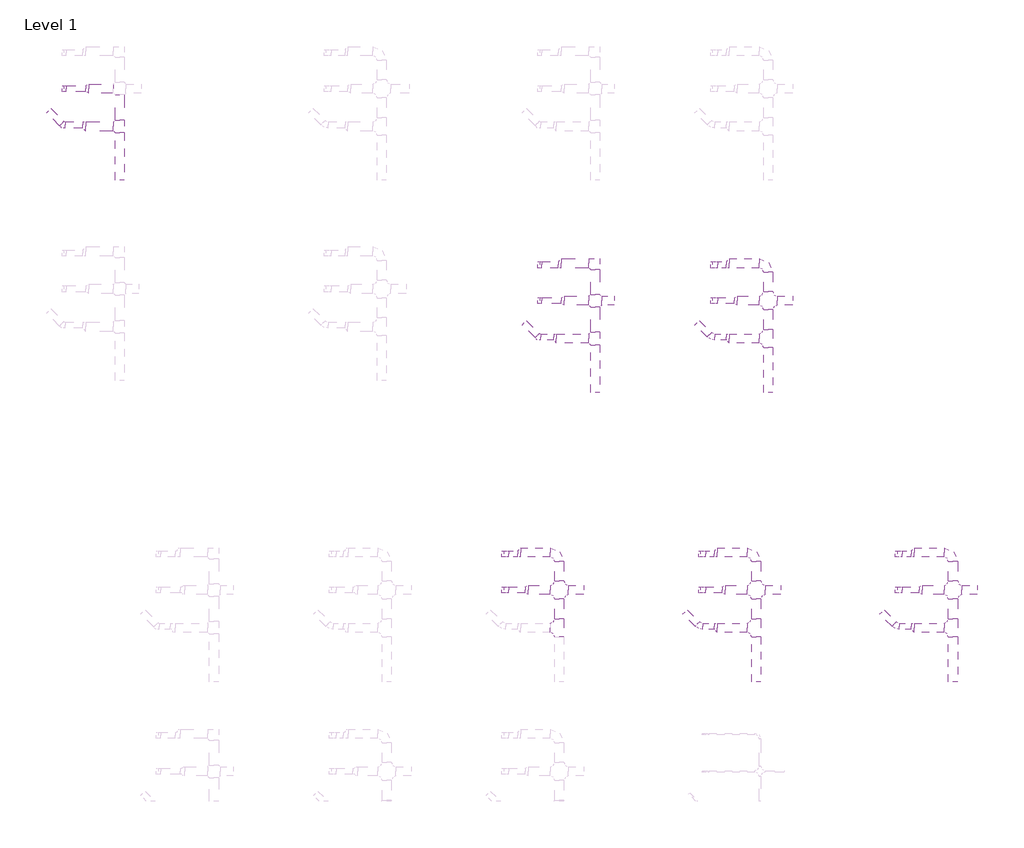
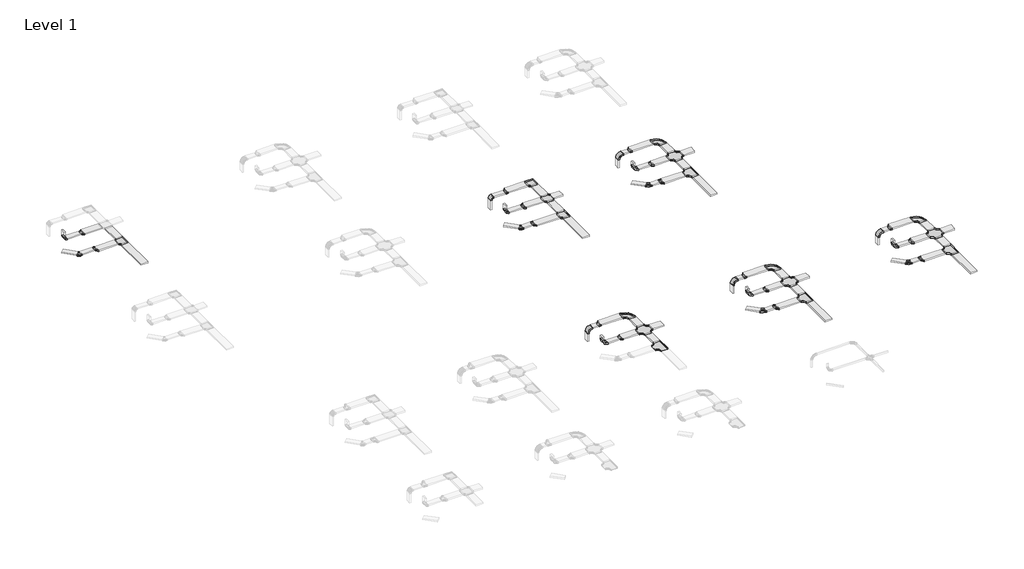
# One storey, part 3 of 42: 69 cable carrier segments, 48 cable carrier fittings.
"""IFC4 building model written with IfcOpenShell, lengths in millimetres."""

from ifc_helpers import new_model, si_unit, frame, origin, place, context, project, spatial, polyline, outline, extrude, transform, mapped, element, save
from components import cable_carrier_fitting_1_mm_2a4d519b, cable_carrier_fitting_1_mm_c912ada3, cable_carrier_fitting_1_mm_805de479, cable_carrier_fitting_1_mm_529289f4, cable_carrier_fitting_1_mm_c1197fce, cable_carrier_fitting_1_mm_367de262, cable_carrier_fitting_1_mm_a7febe8f, cable_carrier_fitting_1_mm_874ef249, cable_carrier_fitting_1_mm_fc54f34e, cable_carrier_fitting_1_mm_42b71fda, cable_carrier_fitting_1_mm_6862339d, cable_carrier_fitting_1_mm_9a7406c8, cable_carrier_fitting_1_mm_d3f2b815, cable_carrier_fitting_1_mm_2ea6bbca, cable_carrier_fitting_1_mm_5924018d, cable_carrier_fitting_1_mm_e192c5dd, cable_carrier_fitting_1_mm_ffd8b238, cable_carrier_fitting_1_mm_02684e42, cable_carrier_fitting_1_mm_d51f4f64, cable_carrier_fitting_1_mm_cfe8fd75, cable_carrier_fitting_1_5_mm_cd1b78aa

model = new_model("IFC4")

# Units and contexts
model_context = context("Model", 3, world=origin())
ifc_project = project(units=[si_unit("LENGTHUNIT", "METRE", prefix="MILLI")], contexts=[model_context])

# Site, building, storey
site = spatial("IfcSite", under=ifc_project)
building = spatial("IfcBuilding", under=site)
storey = spatial("IfcBuildingStorey", under=building, Name="Level 1", Elevation=0.0)

# Cable carrier fittings
placement = place(None, origin())
cable_carrier_fitting_1_mm_shape = cable_carrier_fitting_1_mm_2a4d519b(model_context)
element("IfcCableCarrierFitting", 1, ObjectType="BAKS_Redukcja : 1 mm", at=placement, inside=storey, context=model_context, shape_type="MappedRepresentation", body=[
    mapped(cable_carrier_fitting_1_mm_shape, transform((-29212.5109632, 18572.5015825, 2750.0), x_axis=(1.0, 0.0, 0.0), y_axis=(0.0, 1.0, 0.0), z_axis=(0.0, 0.0, 1.0))),
])
cable_carrier_fitting_1_mm_2_shape = cable_carrier_fitting_1_mm_c912ada3(model_context)
element("IfcCableCarrierFitting", 2, ObjectType="BAKS_Redukcja : 1 mm", at=placement, inside=storey, context=model_context, shape_type="MappedRepresentation", body=[
    mapped(cable_carrier_fitting_1_mm_2_shape, transform((-29212.5109632, 17341.8691699, 2750.0), x_axis=(-1.0, 0.0, 0.0), y_axis=(0.0, -1.0, 0.0), z_axis=(0.0, 0.0, 1.0))),
])
cable_carrier_fitting_1_mm_3_shape = cable_carrier_fitting_1_mm_805de479(model_context)
element("IfcCableCarrierFitting", 3, ObjectType="BAKS_Redukcja : 1 mm", at=placement, inside=storey, context=model_context, shape_type="MappedRepresentation", body=[
    mapped(cable_carrier_fitting_1_mm_3_shape, transform((-13752.21471, 11672.5015825, 2750.0), x_axis=(1.0, 0.0, 0.0), y_axis=(0.0, 1.0, 0.0), z_axis=(0.0, 0.0, 1.0))),
])
element("IfcCableCarrierFitting", 4, ObjectType="BAKS_Redukcja : 1 mm", at=placement, inside=storey, context=model_context, shape_type="MappedRepresentation", body=[
    mapped(cable_carrier_fitting_1_mm_3_shape, transform((-8132.21471, 11672.5015825, 2750.0), x_axis=(1.0, 0.0, 0.0), y_axis=(0.0, 1.0, 0.0), z_axis=(0.0, 0.0, 1.0))),
])
cable_carrier_fitting_1_mm_4_shape = cable_carrier_fitting_1_mm_529289f4(model_context)
element("IfcCableCarrierFitting", 5, ObjectType="BAKS_Redukcja : 1 mm", at=placement, inside=storey, context=model_context, shape_type="MappedRepresentation", body=[
    mapped(cable_carrier_fitting_1_mm_4_shape, transform((-13752.21471, 12890.4928401, 2750.0), x_axis=(-1.0, 0.0, 0.0), y_axis=(0.0, -1.0, 0.0), z_axis=(0.0, 0.0, 1.0))),
])
element("IfcCableCarrierFitting", 6, ObjectType="BAKS_Redukcja : 1 mm", at=placement, inside=storey, context=model_context, shape_type="MappedRepresentation", body=[
    mapped(cable_carrier_fitting_1_mm_4_shape, transform((-8292.21471, 12890.4928401, 2750.0), x_axis=(-1.0, 0.0, 0.0), y_axis=(0.0, -1.0, 0.0), z_axis=(0.0, 0.0, 1.0))),
])
cable_carrier_fitting_1_mm_5_shape = cable_carrier_fitting_1_mm_c1197fce(model_context)
element("IfcCableCarrierFitting", 7, ObjectType="BAKS_Redukcja : 1 mm", at=placement, inside=storey, context=model_context, shape_type="MappedRepresentation", body=[
    mapped(cable_carrier_fitting_1_mm_5_shape, transform((-13912.21471, 10441.8691699, 2750.0), x_axis=(-1.0, 0.0, 0.0), y_axis=(0.0, -1.0, 0.0), z_axis=(0.0, 0.0, 1.0))),
])
element("IfcCableCarrierFitting", 8, ObjectType="BAKS_Redukcja : 1 mm", at=placement, inside=storey, context=model_context, shape_type="MappedRepresentation", body=[
    mapped(cable_carrier_fitting_1_mm_5_shape, transform((-8292.21471, 10441.8691699, 2750.0), x_axis=(-1.0, 0.0, 0.0), y_axis=(0.0, -1.0, 0.0), z_axis=(0.0, 0.0, 1.0))),
])
element("IfcCableCarrierFitting", 9, ObjectType="BAKS_Redukcja E90 : 1 mm", at=placement, inside=storey, context=model_context, shape_type="MappedRepresentation", body=[
    mapped(cable_carrier_fitting_1_mm_3_shape, transform((-2122.2064802, 2262.7261418, 2750.0), x_axis=(1.0, 0.0, 0.0), y_axis=(0.0, 1.0, 0.0), z_axis=(0.0, 0.0, 1.0))),
])
element("IfcCableCarrierFitting", 10, ObjectType="BAKS_Redukcja E90 : 1 mm", at=placement, inside=storey, context=model_context, shape_type="MappedRepresentation", body=[
    mapped(cable_carrier_fitting_1_mm_4_shape, transform((-2282.2064802, 3480.7173994, 2750.0), x_axis=(-1.0, 0.0, 0.0), y_axis=(0.0, -1.0, 0.0), z_axis=(0.0, 0.0, 1.0))),
])
element("IfcCableCarrierFitting", 11, ObjectType="BAKS_Redukcja E90 : 1 mm", at=placement, inside=storey, context=model_context, shape_type="MappedRepresentation", body=[
    mapped(cable_carrier_fitting_1_mm_5_shape, transform((-2282.2064802, 1032.0937292, 2750.0), x_axis=(-1.0, 0.0, 0.0), y_axis=(0.0, -1.0, 0.0), z_axis=(0.0, 0.0, 1.0))),
])
cable_carrier_fitting_1_mm_6_shape = cable_carrier_fitting_1_mm_367de262(model_context)
element("IfcCableCarrierFitting", 12, ObjectType="BAKS_Czwórnik_koryta (R140) : 1 mm", at=placement, inside=storey, context=model_context, shape_type="MappedRepresentation", body=[
    mapped(cable_carrier_fitting_1_mm_6_shape, transform((-7032.21471, 11672.5015825, 2750.0), x_axis=(0.0, 1.0, 0.0), y_axis=(-1.0, 0.0, 0.0), z_axis=(0.0, 0.0, 1.0))),
])
cable_carrier_fitting_1_mm_7_shape = cable_carrier_fitting_1_mm_a7febe8f(model_context)
element("IfcCableCarrierFitting", 13, ObjectType="BAKS_Trójnik_koryta (R140) : 1 mm", at=placement, inside=storey, context=model_context, shape_type="MappedRepresentation", body=[
    mapped(cable_carrier_fitting_1_mm_7_shape, transform((-7032.21471, 10441.8691699, 2750.0), x_axis=(0.0, -1.0, 0.0), y_axis=(1.0, 0.0, 0.0), z_axis=(0.0, 0.0, 1.0))),
])
cable_carrier_fitting_1_mm_8_shape = cable_carrier_fitting_1_mm_874ef249(model_context)
element("IfcCableCarrierFitting", 14, ObjectType="BAKS_Kolano_koryta : 1 mm", at=placement, inside=storey, context=model_context, shape_type="MappedRepresentation", body=[
    mapped(cable_carrier_fitting_1_mm_8_shape, transform((-29952.5109632, 17391.8691699, 2750.0), x_axis=(0.7071067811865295, -0.7071067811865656, 0.0), y_axis=(0.7071067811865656, 0.7071067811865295, 0.0), z_axis=(0.0, 0.0, 1.0))),
])
cable_carrier_fitting_1_mm_9_shape = cable_carrier_fitting_1_mm_fc54f34e(model_context)
element("IfcCableCarrierFitting", 15, ObjectType="BAKS_Kolano_koryta : 1 mm", at=placement, inside=storey, context=model_context, shape_type="MappedRepresentation", body=[
    mapped(cable_carrier_fitting_1_mm_9_shape, transform((-14492.21471, 10491.8691699, 2750.0), x_axis=(0.707106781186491, -0.7071067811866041, 0.0), y_axis=(0.7071067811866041, 0.707106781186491, 0.0), z_axis=(0.0, 0.0, 1.0))),
])
cable_carrier_fitting_1_mm_10_shape = cable_carrier_fitting_1_mm_42b71fda(model_context)
element("IfcCableCarrierFitting", 16, ObjectType="BAKS_Kolano_koryta : 1 mm", at=placement, inside=storey, context=model_context, shape_type="MappedRepresentation", body=[
    mapped(cable_carrier_fitting_1_mm_10_shape, transform((-12652.21471, 12890.4928401, 2750.0), x_axis=(0.0, 1.0, 0.0), y_axis=(-1.0, 0.0, 0.0), z_axis=(0.0, 0.0, 1.0))),
])
cable_carrier_fitting_1_mm_11_shape = cable_carrier_fitting_1_mm_6862339d(model_context)
element("IfcCableCarrierFitting", 17, ObjectType="BAKS_Kolano_koryta (R140) : 1 mm", at=placement, inside=storey, context=model_context, shape_type="MappedRepresentation", body=[
    mapped(cable_carrier_fitting_1_mm_11_shape, transform((-8872.21471, 10491.8691699, 2750.0), x_axis=(0.7071067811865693, -0.7071067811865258, 0.0), y_axis=(0.7071067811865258, 0.7071067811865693, 0.0), z_axis=(0.0, 0.0, 1.0))),
])
cable_carrier_fitting_1_mm_12_shape = cable_carrier_fitting_1_mm_9a7406c8(model_context)
element("IfcCableCarrierFitting", 18, ObjectType="BAKS_Kolano_koryta (R140) : 1 mm", at=placement, inside=storey, context=model_context, shape_type="MappedRepresentation", body=[
    mapped(cable_carrier_fitting_1_mm_12_shape, transform((-7032.21471, 12890.4928401, 2750.0), x_axis=(0.0, 1.0, 0.0), y_axis=(-1.0, 0.0, 0.0), z_axis=(0.0, 0.0, 1.0))),
])
cable_carrier_fitting_1_mm_13_shape = cable_carrier_fitting_1_mm_d3f2b815(model_context)
element("IfcCableCarrierFitting", 19, ObjectType="BAKS_Czwórnik_koryta : 1 mm", at=placement, inside=storey, context=model_context, shape_type="MappedRepresentation", body=[
    mapped(cable_carrier_fitting_1_mm_13_shape, transform((-12652.21471, 11672.5015825, 2750.0), x_axis=(0.0, 1.0, 0.0), y_axis=(-1.0, 0.0, 0.0), z_axis=(0.0, 0.0, 1.0))),
])
cable_carrier_fitting_1_mm_14_shape = cable_carrier_fitting_1_mm_2ea6bbca(model_context)
element("IfcCableCarrierFitting", 20, ObjectType="BAKS_Trójnik_koryta : 1 mm", at=placement, inside=storey, context=model_context, shape_type="MappedRepresentation", body=[
    mapped(cable_carrier_fitting_1_mm_14_shape, transform((-28112.5109632, 17341.8691699, 2750.0), x_axis=(0.0, -1.0, 0.0), y_axis=(1.0, 0.0, 0.0), z_axis=(0.0, 0.0, 1.0))),
])
cable_carrier_fitting_1_mm_15_shape = cable_carrier_fitting_1_mm_5924018d(model_context)
element("IfcCableCarrierFitting", 21, ObjectType="BAKS_Trójnik_koryta : 1 mm", at=placement, inside=storey, context=model_context, shape_type="MappedRepresentation", body=[
    mapped(cable_carrier_fitting_1_mm_15_shape, transform((-12652.21471, 10441.8691699, 2750.0), x_axis=(0.0, -1.0, 0.0), y_axis=(1.0, 0.0, 0.0), z_axis=(0.0, 0.0, 1.0))),
])
cable_carrier_fitting_1_mm_16_shape = cable_carrier_fitting_1_mm_e192c5dd(model_context)
element("IfcCableCarrierFitting", 22, ObjectType="BAKS_Kolano_koryta E90 (R140) : 1 mm", at=placement, inside=storey, context=model_context, shape_type="MappedRepresentation", body=[
    mapped(cable_carrier_fitting_1_mm_16_shape, transform((-2862.2064802, 1082.0937292, 2750.0), x_axis=(0.7071067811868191, -0.707106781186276, 0.0), y_axis=(0.707106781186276, 0.7071067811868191, 0.0), z_axis=(0.0, 0.0, 1.0))),
])
cable_carrier_fitting_1_mm_17_shape = cable_carrier_fitting_1_mm_ffd8b238(model_context)
element("IfcCableCarrierFitting", 23, ObjectType="BAKS_Kolano_koryta E90 (R140) : 1 mm", at=placement, inside=storey, context=model_context, shape_type="MappedRepresentation", body=[
    mapped(cable_carrier_fitting_1_mm_17_shape, transform((-1022.2064802, 3480.7173994, 2750.0), x_axis=(0.0, 1.0, 0.0), y_axis=(-1.0, 0.0, 0.0), z_axis=(0.0, 0.0, 1.0))),
])
element("IfcCableCarrierFitting", 24, ObjectType="BAKS_Czwórnik_koryta E90 (R140) : 1 mm", at=placement, inside=storey, context=model_context, shape_type="MappedRepresentation", body=[
    mapped(cable_carrier_fitting_1_mm_6_shape, transform((-1022.2064802, 2262.7261418, 2750.0), x_axis=(0.0, 1.0, 0.0), y_axis=(-1.0, 0.0, 0.0), z_axis=(0.0, 0.0, 1.0))),
])
element("IfcCableCarrierFitting", 25, ObjectType="BAKS_Trójnik_koryta E90 (R140) : 1 mm", at=placement, inside=storey, context=model_context, shape_type="MappedRepresentation", body=[
    mapped(cable_carrier_fitting_1_mm_7_shape, transform((-1022.2064802, 1032.0937292, 2750.0), x_axis=(0.0, -1.0, 0.0), y_axis=(1.0, 0.0, 0.0), z_axis=(0.0, 0.0, 1.0))),
])
cable_carrier_fitting_1_mm_18_shape = cable_carrier_fitting_1_mm_02684e42(model_context)
element("IfcCableCarrierFitting", 26, ObjectType="BAKS_Łuk_koryta_pionowy E90 (R140)z : 1 mm", at=placement, inside=storey, context=model_context, shape_type="MappedRepresentation", body=[
    mapped(cable_carrier_fitting_1_mm_18_shape, transform((-2862.2064802, 3430.7173994, 2750.0), x_axis=(0.0, 0.0, 1.0), y_axis=(1.0, 0.0, 0.0), z_axis=(0.0, 1.0, 0.0))),
])
element("IfcCableCarrierFitting", 27, ObjectType="BAKS_Łuk_koryta_pionowy E90 (R140)w : 1 mm", at=placement, inside=storey, context=model_context, shape_type="MappedRepresentation", body=[
    mapped(cable_carrier_fitting_1_mm_18_shape, transform((-2862.2064802, 2262.7261418, 2750.0), x_axis=(0.0, 0.0, -1.0), y_axis=(1.0, 0.0, 0.0), z_axis=(0.0, -1.0, 0.0))),
])
cable_carrier_fitting_1_mm_19_shape = cable_carrier_fitting_1_mm_d51f4f64(model_context)
element("IfcCableCarrierFitting", 28, ObjectType="BAKS_Łuk_koryta_pionowy (R50)w : 1 mm", at=placement, inside=storey, context=model_context, shape_type="MappedRepresentation", body=[
    mapped(cable_carrier_fitting_1_mm_19_shape, transform((-29952.5109632, 18572.5015825, 2750.0), x_axis=(0.0, 0.0, -1.0), y_axis=(1.0, 0.0, 0.0), z_axis=(0.0, -1.0, 0.0))),
])
cable_carrier_fitting_1_mm_20_shape = cable_carrier_fitting_1_mm_cfe8fd75(model_context)
element("IfcCableCarrierFitting", 29, ObjectType="BAKS_Łuk_koryta_pionowy (R50)z : 1 mm", at=placement, inside=storey, context=model_context, shape_type="MappedRepresentation", body=[
    mapped(cable_carrier_fitting_1_mm_20_shape, transform((-14492.21471, 12840.4928401, 2750.0), x_axis=(0.0, 0.0, 1.0), y_axis=(1.0, 0.0, 0.0), z_axis=(0.0, 1.0, 0.0))),
])
element("IfcCableCarrierFitting", 30, ObjectType="BAKS_Łuk_koryta_pionowy (R50)w : 1 mm", at=placement, inside=storey, context=model_context, shape_type="MappedRepresentation", body=[
    mapped(cable_carrier_fitting_1_mm_20_shape, transform((-14492.21471, 11672.5015825, 2750.0), x_axis=(0.0, 0.0, -1.0), y_axis=(1.0, 0.0, 0.0), z_axis=(0.0, -1.0, 0.0))),
])
element("IfcCableCarrierFitting", 31, ObjectType="BAKS_Łuk_koryta_pionowy (R140)z : 1 mm", at=placement, inside=storey, context=model_context, shape_type="MappedRepresentation", body=[
    mapped(cable_carrier_fitting_1_mm_18_shape, transform((-8872.21471, 12840.4928401, 2750.0), x_axis=(0.0, 0.0, 1.0), y_axis=(1.0, 0.0, 0.0), z_axis=(0.0, 1.0, 0.0))),
])
element("IfcCableCarrierFitting", 32, ObjectType="BAKS_Łuk_koryta_pionowy (R140)w : 1 mm", at=placement, inside=storey, context=model_context, shape_type="MappedRepresentation", body=[
    mapped(cable_carrier_fitting_1_mm_18_shape, transform((-8872.21471, 11672.5015825, 2750.0), x_axis=(0.0, 0.0, -1.0), y_axis=(1.0, 0.0, 0.0), z_axis=(0.0, -1.0, 0.0))),
])
element("IfcCableCarrierFitting", 33, ObjectType="BAKS_Redukcja E90 : 1.5 mm", at=placement, inside=storey, context=model_context, shape_type="MappedRepresentation", body=[
    mapped(cable_carrier_fitting_1_mm_3_shape, transform((-8522.2064802, 2262.7261418, 2750.0), x_axis=(1.0, 0.0, 0.0), y_axis=(0.0, 1.0, 0.0), z_axis=(0.0, 0.0, 1.0))),
])
element("IfcCableCarrierFitting", 34, ObjectType="BAKS_Redukcja E90 : 1.5 mm", at=placement, inside=storey, context=model_context, shape_type="MappedRepresentation", body=[
    mapped(cable_carrier_fitting_1_mm_3_shape, transform((-14922.2064802, 2262.7261418, 2750.0), x_axis=(1.0, 0.0, 0.0), y_axis=(0.0, 1.0, 0.0), z_axis=(0.0, 0.0, 1.0))),
])
element("IfcCableCarrierFitting", 35, ObjectType="BAKS_Redukcja E90 : 1.5 mm", at=placement, inside=storey, context=model_context, shape_type="MappedRepresentation", body=[
    mapped(cable_carrier_fitting_1_mm_4_shape, transform((-8682.2064802, 3480.7173994, 2750.0), x_axis=(-1.0, 0.0, 0.0), y_axis=(0.0, -1.0, 0.0), z_axis=(0.0, 0.0, 1.0))),
])
element("IfcCableCarrierFitting", 36, ObjectType="BAKS_Redukcja E90 : 1.5 mm", at=placement, inside=storey, context=model_context, shape_type="MappedRepresentation", body=[
    mapped(cable_carrier_fitting_1_mm_4_shape, transform((-15082.2064802, 3480.7173994, 2750.0), x_axis=(-1.0, 0.0, 0.0), y_axis=(0.0, -1.0, 0.0), z_axis=(0.0, 0.0, 1.0))),
])
element("IfcCableCarrierFitting", 37, ObjectType="BAKS_Redukcja E90 : 1.5 mm", at=placement, inside=storey, context=model_context, shape_type="MappedRepresentation", body=[
    mapped(cable_carrier_fitting_1_mm_5_shape, transform((-8682.2064802, 1032.0937292, 2750.0), x_axis=(-1.0, 0.0, 0.0), y_axis=(0.0, -1.0, 0.0), z_axis=(0.0, 0.0, 1.0))),
])
cable_carrier_fitting_1_5_mm_shape = cable_carrier_fitting_1_5_mm_cd1b78aa(model_context)
element("IfcCableCarrierFitting", 38, ObjectType="BAKS_Kolano_koryta E90 (R140) : 1.5 mm", at=placement, inside=storey, context=model_context, shape_type="MappedRepresentation", body=[
    mapped(cable_carrier_fitting_1_5_mm_shape, transform((-9262.2064802, 1082.0937292, 2750.0), x_axis=(0.7071067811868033, -0.7071067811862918, 0.0), y_axis=(0.7071067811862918, 0.7071067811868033, 0.0), z_axis=(0.0, 0.0, 1.0))),
])
element("IfcCableCarrierFitting", 39, ObjectType="BAKS_Kolano_koryta E90 (R140) : 1.5 mm", at=placement, inside=storey, context=model_context, shape_type="MappedRepresentation", body=[
    mapped(cable_carrier_fitting_1_mm_17_shape, transform((-7422.2064802, 3480.7173994, 2750.0), x_axis=(0.0, 1.0, 0.0), y_axis=(-1.0, 0.0, 0.0), z_axis=(0.0, 0.0, 1.0))),
])
element("IfcCableCarrierFitting", 40, ObjectType="BAKS_Kolano_koryta E90 (R140) : 1.5 mm", at=placement, inside=storey, context=model_context, shape_type="MappedRepresentation", body=[
    mapped(cable_carrier_fitting_1_mm_17_shape, transform((-13822.2064802, 3480.7173994, 2750.0), x_axis=(0.0, 1.0, 0.0), y_axis=(-1.0, 0.0, 0.0), z_axis=(0.0, 0.0, 1.0))),
])
element("IfcCableCarrierFitting", 41, ObjectType="BAKS_Czwórnik_koryta E90 (R140) : 1.5 mm", at=placement, inside=storey, context=model_context, shape_type="MappedRepresentation", body=[
    mapped(cable_carrier_fitting_1_mm_6_shape, transform((-7422.2064802, 2262.7261418, 2750.0), x_axis=(0.0, 1.0, 0.0), y_axis=(-1.0, 0.0, 0.0), z_axis=(0.0, 0.0, 1.0))),
])
element("IfcCableCarrierFitting", 42, ObjectType="BAKS_Czwórnik_koryta E90 (R140) : 1.5 mm", at=placement, inside=storey, context=model_context, shape_type="MappedRepresentation", body=[
    mapped(cable_carrier_fitting_1_mm_6_shape, transform((-13822.2064802, 2262.7261418, 2750.0), x_axis=(0.0, 1.0, 0.0), y_axis=(-1.0, 0.0, 0.0), z_axis=(0.0, 0.0, 1.0))),
])
element("IfcCableCarrierFitting", 43, ObjectType="BAKS_Trójnik_koryta E90 (R140) : 1.5 mm", at=placement, inside=storey, context=model_context, shape_type="MappedRepresentation", body=[
    mapped(cable_carrier_fitting_1_mm_7_shape, transform((-7422.2064802, 1032.0937292, 2750.0), x_axis=(0.0, -1.0, 0.0), y_axis=(1.0, 0.0, 0.0), z_axis=(0.0, 0.0, 1.0))),
])
element("IfcCableCarrierFitting", 44, ObjectType="BAKS_Trójnik_koryta E90 (R140) : 1.5 mm", at=placement, inside=storey, context=model_context, shape_type="MappedRepresentation", body=[
    mapped(cable_carrier_fitting_1_mm_7_shape, transform((-13822.2064802, 1032.0937292, 2750.0), x_axis=(0.0, -1.0, 0.0), y_axis=(1.0, 0.0, 0.0), z_axis=(0.0, 0.0, 1.0))),
])
element("IfcCableCarrierFitting", 45, ObjectType="BAKS_Łuk_koryta_pionowy E90 (R140)z : 1.5 mm", at=placement, inside=storey, context=model_context, shape_type="MappedRepresentation", body=[
    mapped(cable_carrier_fitting_1_mm_18_shape, transform((-9262.2064802, 3430.7173994, 2750.0), x_axis=(0.0, 0.0, 1.0), y_axis=(1.0, 0.0, 0.0), z_axis=(0.0, 1.0, 0.0))),
])
element("IfcCableCarrierFitting", 46, ObjectType="BAKS_Łuk_koryta_pionowy E90 (R140)z : 1.5 mm", at=placement, inside=storey, context=model_context, shape_type="MappedRepresentation", body=[
    mapped(cable_carrier_fitting_1_mm_18_shape, transform((-15662.2064802, 3430.7173994, 2750.0), x_axis=(0.0, 0.0, 1.0), y_axis=(1.0, 0.0, 0.0), z_axis=(0.0, 1.0, 0.0))),
])
element("IfcCableCarrierFitting", 47, ObjectType="BAKS_Łuk_koryta_pionowy E90 (R140)w : 1.5 mm", at=placement, inside=storey, context=model_context, shape_type="MappedRepresentation", body=[
    mapped(cable_carrier_fitting_1_mm_18_shape, transform((-9262.2064802, 2262.7261418, 2750.0), x_axis=(0.0, 0.0, -1.0), y_axis=(1.0, 0.0, 0.0), z_axis=(0.0, -1.0, 0.0))),
])
element("IfcCableCarrierFitting", 48, ObjectType="BAKS_Łuk_koryta_pionowy E90 (R140)w : 1.5 mm", at=placement, inside=storey, context=model_context, shape_type="MappedRepresentation", body=[
    mapped(cable_carrier_fitting_1_mm_18_shape, transform((-15662.2064802, 2262.7261418, 2750.0), x_axis=(0.0, 0.0, -1.0), y_axis=(1.0, 0.0, 0.0), z_axis=(0.0, -1.0, 0.0))),
])

# Cable carrier segments
element("IfcCableCarrierSegment", 49, ObjectType="BAKS - koryto kablowe H50 (KCL) - ostre", at=placement, inside=storey, context=model_context, shape_type="SweptSolid", body=[
    extrude(outline(polyline([(-27962.5109632, 17546.8691699), (-28262.5109632, 17546.8691699), (-28262.5109632, 18367.5015825), (-27962.5109632, 18367.5015825), (-27962.5109632, 17546.8691699)])), frame((0.0, 0.0, 2725.0), z_axis=(0.0, 0.0, 1.0), x_axis=(1.0, 0.0, 0.0)), (0.0, 0.0, 1.0), 50.0),
])
element("IfcCableCarrierSegment", 50, ObjectType="BAKS - koryto kablowe H50 (KCL) - ostre", at=placement, inside=storey, context=model_context, shape_type="SweptSolid", body=[
    extrude(outline(polyline([(-27962.5109632, 15590.4928401), (-28262.5109632, 15590.4928401), (-28262.5109632, 17136.8691699), (-27962.5109632, 17136.8691699), (-27962.5109632, 15590.4928401)])), frame((0.0, 0.0, 2725.0), z_axis=(0.0, 0.0, 1.0), x_axis=(1.0, 0.0, 0.0)), (0.0, 0.0, 1.0), 50.0),
])
element("IfcCableCarrierSegment", 51, ObjectType="BAKS - koryto kablowe H50 (KCL) - ostre", at=placement, inside=storey, context=model_context, shape_type="SweptSolid", body=[
    extrude(outline(polyline([(-29927.5109632, 18672.5015825), (-29927.5109632, 18472.5015825), (-29977.5109632, 18472.5015825), (-29977.5109632, 18672.5015825), (-29927.5109632, 18672.5015825)])), frame((0.0, 0.0, 2850.0), z_axis=(0.0, 0.0, 1.0), x_axis=(1.0, 0.0, 0.0)), (0.0, 0.0, 1.0), 250.0),
])
element("IfcCableCarrierSegment", 52, ObjectType="BAKS - koryto kablowe H50 (KCL) - ostre", at=placement, inside=storey, context=model_context, shape_type="SweptSolid", body=[
    extrude(outline(polyline([(-29852.5109632, 18472.5015825), (-29852.5109632, 18672.5015825), (-29212.5109632, 18672.5015825), (-29212.5109632, 18472.5015825), (-29852.5109632, 18472.5015825)])), frame((0.0, 0.0, 2725.0), z_axis=(0.0, 0.0, 1.0), x_axis=(1.0, 0.0, 0.0)), (0.0, 0.0, 1.0), 50.0),
])
element("IfcCableCarrierSegment", 53, ObjectType="BAKS - koryto kablowe H50 (KCL) - ostre", at=placement, inside=storey, context=model_context, shape_type="SweptSolid", body=[
    extrude(outline(polyline([(-30489.9121169, 17787.8489674), (-30348.4907606, 17929.2703236), (-29927.9058408, 17508.6854037), (-30069.327197, 17367.2640475), (-30489.9121169, 17787.8489674)])), frame((0.0, 0.0, 2725.0), z_axis=(0.0, 0.0, 1.0), x_axis=(1.0, 0.0, 0.0)), (0.0, 0.0, 1.0), 50.0),
])
element("IfcCableCarrierSegment", 54, ObjectType="BAKS - koryto kablowe H50 (KCL) - ostre", at=placement, inside=storey, context=model_context, shape_type="SweptSolid", body=[
    extrude(outline(polyline([(-29307.5109632, 17491.8691699), (-29307.5109632, 17291.8691699), (-29887.307861, 17291.8691699), (-29887.307861, 17491.8691699), (-29307.5109632, 17491.8691699)])), frame((0.0, 0.0, 2725.0), z_axis=(0.0, 0.0, 1.0), x_axis=(1.0, 0.0, 0.0)), (0.0, 0.0, 1.0), 50.0),
])
element("IfcCableCarrierSegment", 55, ObjectType="BAKS - koryto kablowe H50 (KCL) - ostre", at=placement, inside=storey, context=model_context, shape_type="SweptSolid", body=[
    extrude(outline(polyline([(-28317.5109632, 17491.8691699), (-28317.5109632, 17191.8691699), (-29212.5109632, 17191.8691699), (-29212.5109632, 17491.8691699), (-28317.5109632, 17491.8691699)])), frame((0.0, 0.0, 2725.0), z_axis=(0.0, 0.0, 1.0), x_axis=(1.0, 0.0, 0.0)), (0.0, 0.0, 1.0), 50.0),
])
element("IfcCableCarrierSegment", 56, ObjectType="BAKS - koryto kablowe H50 (KCL) - ostre", at=placement, inside=storey, context=model_context, shape_type="SweptSolid", body=[
    extrude(outline(polyline([(-29117.5109632, 18422.5015825), (-29117.5109632, 18722.5015825), (-28317.5109632, 18722.5015825), (-28317.5109632, 18422.5015825), (-29117.5109632, 18422.5015825)])), frame((0.0, 0.0, 2725.0), z_axis=(0.0, 0.0, 1.0), x_axis=(1.0, 0.0, 0.0)), (0.0, 0.0, 1.0), 50.0),
])
element("IfcCableCarrierSegment", 57, ObjectType="BAKS - koryto kablowe H60 (KGJ) - ostre", at=placement, inside=storey, context=model_context, shape_type="SweptSolid", body=[
    extrude(outline(polyline([(-12502.21471, 10646.8691699), (-12802.21471, 10646.8691699), (-12802.21471, 11467.5015825), (-12502.21471, 11467.5015825), (-12502.21471, 10646.8691699)])), frame((0.0, 0.0, 2720.0), z_axis=(0.0, 0.0, 1.0), x_axis=(1.0, 0.0, 0.0)), (0.0, 0.0, 1.0), 60.0),
])
element("IfcCableCarrierSegment", 58, ObjectType="BAKS - koryto kablowe H60 (KGJ) - ostre", at=placement, inside=storey, context=model_context, shape_type="SweptSolid", body=[
    extrude(outline(polyline([(-14462.21471, 12740.4928401), (-14522.21471, 12740.4928401), (-14522.21471, 12940.4928401), (-14462.21471, 12940.4928401), (-14462.21471, 12740.4928401)])), frame((0.0, 0.0, 2200.0), z_axis=(0.0, 0.0, 1.0), x_axis=(1.0, 0.0, 0.0)), (0.0, 0.0, 1.0), 445.0),
])
element("IfcCableCarrierSegment", 59, ObjectType="BAKS - koryto kablowe H60 (KGJ) - ostre", at=placement, inside=storey, context=model_context, shape_type="SweptSolid", body=[
    extrude(outline(polyline([(-13847.21471, 12940.4928401), (-13847.21471, 12740.4928401), (-14387.21471, 12740.4928401), (-14387.21471, 12940.4928401), (-13847.21471, 12940.4928401)])), frame((0.0, 0.0, 2720.0), z_axis=(0.0, 0.0, 1.0), x_axis=(1.0, 0.0, 0.0)), (0.0, 0.0, 1.0), 60.0),
])
element("IfcCableCarrierSegment", 60, ObjectType="BAKS - koryto kablowe H60 (KGJ) - ostre", at=placement, inside=storey, context=model_context, shape_type="SweptSolid", body=[
    extrude(outline(polyline([(-12502.21471, 8690.4928401), (-12802.21471, 8690.4928401), (-12802.21471, 10236.8691699), (-12502.21471, 10236.8691699), (-12502.21471, 8690.4928401)])), frame((0.0, 0.0, 2720.0), z_axis=(0.0, 0.0, 1.0), x_axis=(1.0, 0.0, 0.0)), (0.0, 0.0, 1.0), 60.0),
])
element("IfcCableCarrierSegment", 61, ObjectType="BAKS - koryto kablowe H60 (KGJ) - ostre", at=placement, inside=storey, context=model_context, shape_type="SweptSolid", body=[
    extrude(outline(polyline([(-14522.21471, 11572.5015825), (-14522.21471, 11772.5015825), (-14462.21471, 11772.5015825), (-14462.21471, 11572.5015825), (-14522.21471, 11572.5015825)])), frame((0.0, 0.0, 2855.0), z_axis=(0.0, 0.0, 1.0), x_axis=(1.0, 0.0, 0.0)), (0.0, 0.0, 1.0), 245.0),
])
element("IfcCableCarrierSegment", 62, ObjectType="BAKS - koryto kablowe H60 (KGJ) - ostre", at=placement, inside=storey, context=model_context, shape_type="SweptSolid", body=[
    extrude(outline(polyline([(-14387.21471, 11572.5015825), (-14387.21471, 11772.5015825), (-13752.21471, 11772.5015825), (-13752.21471, 11572.5015825), (-14387.21471, 11572.5015825)])), frame((0.0, 0.0, 2720.0), z_axis=(0.0, 0.0, 1.0), x_axis=(1.0, 0.0, 0.0)), (0.0, 0.0, 1.0), 60.0),
])
element("IfcCableCarrierSegment", 63, ObjectType="BAKS - koryto kablowe H60 (KGJ) - ostre", at=placement, inside=storey, context=model_context, shape_type="SweptSolid", body=[
    extrude(outline(polyline([(-15029.6158637, 10887.8489674), (-14888.1945075, 11029.2703236), (-14467.6095876, 10608.6854037), (-14609.0309438, 10467.2640475), (-15029.6158637, 10887.8489674)])), frame((0.0, 0.0, 2720.0), z_axis=(0.0, 0.0, 1.0), x_axis=(1.0, 0.0, 0.0)), (0.0, 0.0, 1.0), 60.0),
])
element("IfcCableCarrierSegment", 64, ObjectType="BAKS - koryto kablowe H60 (KGJ) - ostre", at=placement, inside=storey, context=model_context, shape_type="SweptSolid", body=[
    extrude(outline(polyline([(-14007.21471, 10591.8691699), (-14007.21471, 10391.8691699), (-14427.0116078, 10391.8691699), (-14427.0116078, 10591.8691699), (-14007.21471, 10591.8691699)])), frame((0.0, 0.0, 2720.0), z_axis=(0.0, 0.0, 1.0), x_axis=(1.0, 0.0, 0.0)), (0.0, 0.0, 1.0), 60.0),
])
element("IfcCableCarrierSegment", 65, ObjectType="BAKS - koryto kablowe H60 (KGJ) - ostre", at=placement, inside=storey, context=model_context, shape_type="SweptSolid", body=[
    extrude(outline(polyline([(-12029.71471, 11822.5015825), (-12029.71471, 11522.5015825), (-12447.21471, 11522.5015825), (-12447.21471, 11822.5015825), (-12029.71471, 11822.5015825)])), frame((0.0, 0.0, 2720.0), z_axis=(0.0, 0.0, 1.0), x_axis=(1.0, 0.0, 0.0)), (0.0, 0.0, 1.0), 60.0),
])
element("IfcCableCarrierSegment", 66, ObjectType="BAKS - koryto kablowe H60 (KGJ) - ostre", at=placement, inside=storey, context=model_context, shape_type="SweptSolid", body=[
    extrude(outline(polyline([(-12857.21471, 10591.8691699), (-12857.21471, 10291.8691699), (-13912.21471, 10291.8691699), (-13912.21471, 10591.8691699), (-12857.21471, 10591.8691699)])), frame((0.0, 0.0, 2720.0), z_axis=(0.0, 0.0, 1.0), x_axis=(1.0, 0.0, 0.0)), (0.0, 0.0, 1.0), 60.0),
])
element("IfcCableCarrierSegment", 67, ObjectType="BAKS - koryto kablowe H60 (KGJ) - ostre", at=placement, inside=storey, context=model_context, shape_type="SweptSolid", body=[
    extrude(outline(polyline([(-13657.21471, 11522.5015825), (-13657.21471, 11822.5015825), (-12857.21471, 11822.5015825), (-12857.21471, 11522.5015825), (-13657.21471, 11522.5015825)])), frame((0.0, 0.0, 2720.0), z_axis=(0.0, 0.0, 1.0), x_axis=(1.0, 0.0, 0.0)), (0.0, 0.0, 1.0), 60.0),
])
element("IfcCableCarrierSegment", 68, ObjectType="BAKS - koryto kablowe H60 (KGJ) - ostre", at=placement, inside=storey, context=model_context, shape_type="SweptSolid", body=[
    extrude(outline(polyline([(-12502.21471, 11877.5015825), (-12802.21471, 11877.5015825), (-12802.21471, 12684.4928401), (-12502.21471, 12684.4928401), (-12502.21471, 11877.5015825)])), frame((0.0, 0.0, 2720.0), z_axis=(0.0, 0.0, 1.0), x_axis=(1.0, 0.0, 0.0)), (0.0, 0.0, 1.0), 60.0),
])
element("IfcCableCarrierSegment", 69, ObjectType="BAKS - koryto kablowe H60 (KGJ) - ostre", at=placement, inside=storey, context=model_context, shape_type="SweptSolid", body=[
    extrude(outline(polyline([(-12858.21471, 13040.4928401), (-12858.21471, 12740.4928401), (-13752.21471, 12740.4928401), (-13752.21471, 13040.4928401), (-12858.21471, 13040.4928401)])), frame((0.0, 0.0, 2720.0), z_axis=(0.0, 0.0, 1.0), x_axis=(1.0, 0.0, 0.0)), (0.0, 0.0, 1.0), 60.0),
])
element("IfcCableCarrierSegment", 70, ObjectType="BAKS - koryto kablowe H60 (KGJ) - promieniowe", at=placement, inside=storey, context=model_context, shape_type="SweptSolid", body=[
    extrude(outline(polyline([(-6882.21471, 10732.8691699), (-7182.21471, 10732.8691699), (-7182.21471, 11381.5015825), (-6882.21471, 11381.5015825), (-6882.21471, 10732.8691699)])), frame((0.0, 0.0, 2720.0), z_axis=(0.0, 0.0, 1.0), x_axis=(1.0, 0.0, 0.0)), (0.0, 0.0, 1.0), 60.0),
])
element("IfcCableCarrierSegment", 71, ObjectType="BAKS - koryto kablowe H60 (KGJ) - promieniowe", at=placement, inside=storey, context=model_context, shape_type="SweptSolid", body=[
    extrude(outline(polyline([(-8842.21471, 12740.4928401), (-8902.21471, 12740.4928401), (-8902.21471, 12940.4928401), (-8842.21471, 12940.4928401), (-8842.21471, 12740.4928401)])), frame((0.0, 0.0, 2200.0), z_axis=(0.0, 0.0, 1.0), x_axis=(1.0, 0.0, 0.0)), (0.0, 0.0, 1.0), 355.0),
])
element("IfcCableCarrierSegment", 72, ObjectType="BAKS - koryto kablowe H60 (KGJ) - promieniowe", at=placement, inside=storey, context=model_context, shape_type="SweptSolid", body=[
    extrude(outline(polyline([(-8387.21471, 12940.4928401), (-8387.21471, 12740.4928401), (-8677.21471, 12740.4928401), (-8677.21471, 12940.4928401), (-8387.21471, 12940.4928401)])), frame((0.0, 0.0, 2720.0), z_axis=(0.0, 0.0, 1.0), x_axis=(1.0, 0.0, 0.0)), (0.0, 0.0, 1.0), 60.0),
])
element("IfcCableCarrierSegment", 73, ObjectType="BAKS - koryto kablowe H60 (KGJ) - promieniowe", at=placement, inside=storey, context=model_context, shape_type="SweptSolid", body=[
    extrude(outline(polyline([(-6882.21471, 8690.4928401), (-7182.21471, 8690.4928401), (-7182.21471, 10150.8691699), (-6882.21471, 10150.8691699), (-6882.21471, 8690.4928401)])), frame((0.0, 0.0, 2720.0), z_axis=(0.0, 0.0, 1.0), x_axis=(1.0, 0.0, 0.0)), (0.0, 0.0, 1.0), 60.0),
])
element("IfcCableCarrierSegment", 74, ObjectType="BAKS - koryto kablowe H60 (KGJ) - promieniowe", at=placement, inside=storey, context=model_context, shape_type="SweptSolid", body=[
    extrude(outline(polyline([(-8902.21471, 11572.5015825), (-8902.21471, 11772.5015825), (-8842.21471, 11772.5015825), (-8842.21471, 11572.5015825), (-8902.21471, 11572.5015825)])), frame((0.0, 0.0, 2945.0), z_axis=(0.0, 0.0, 1.0), x_axis=(1.0, 0.0, 0.0)), (0.0, 0.0, 1.0), 155.0),
])
element("IfcCableCarrierSegment", 75, ObjectType="BAKS - koryto kablowe H60 (KGJ) - promieniowe", at=placement, inside=storey, context=model_context, shape_type="SweptSolid", body=[
    extrude(outline(polyline([(-8677.21471, 11572.5015825), (-8677.21471, 11772.5015825), (-8132.21471, 11772.5015825), (-8132.21471, 11572.5015825), (-8677.21471, 11572.5015825)])), frame((0.0, 0.0, 2720.0), z_axis=(0.0, 0.0, 1.0), x_axis=(1.0, 0.0, 0.0)), (0.0, 0.0, 1.0), 60.0),
])
element("IfcCableCarrierSegment", 76, ObjectType="BAKS - koryto kablowe H60 (KGJ) - promieniowe", at=placement, inside=storey, context=model_context, shape_type="SweptSolid", body=[
    extrude(outline(polyline([(-9409.6158637, 10887.8489674), (-9268.1945075, 11029.2703236), (-8872.5055112, 10633.5813273), (-9013.9268674, 10492.1599711), (-9409.6158637, 10887.8489674)])), frame((0.0, 0.0, 2720.0), z_axis=(0.0, 0.0, 1.0), x_axis=(1.0, 0.0, 0.0)), (0.0, 0.0, 1.0), 60.0),
])
element("IfcCableCarrierSegment", 77, ObjectType="BAKS - koryto kablowe H60 (KGJ) - promieniowe", at=placement, inside=storey, context=model_context, shape_type="SweptSolid", body=[
    extrude(outline(polyline([(-8387.21471, 10591.8691699), (-8387.21471, 10391.8691699), (-8771.803455, 10391.8691699), (-8771.803455, 10591.8691699), (-8387.21471, 10591.8691699)])), frame((0.0, 0.0, 2720.0), z_axis=(0.0, 0.0, 1.0), x_axis=(1.0, 0.0, 0.0)), (0.0, 0.0, 1.0), 60.0),
])
element("IfcCableCarrierSegment", 78, ObjectType="BAKS - koryto kablowe H60 (KGJ) - promieniowe", at=placement, inside=storey, context=model_context, shape_type="SweptSolid", body=[
    extrude(outline(polyline([(-6237.21471, 11822.5015825), (-6237.21471, 11522.5015825), (-6741.21471, 11522.5015825), (-6741.21471, 11822.5015825), (-6237.21471, 11822.5015825)])), frame((0.0, 0.0, 2720.0), z_axis=(0.0, 0.0, 1.0), x_axis=(1.0, 0.0, 0.0)), (0.0, 0.0, 1.0), 60.0),
])
element("IfcCableCarrierSegment", 79, ObjectType="BAKS - koryto kablowe H60 (KGJ) - promieniowe", at=placement, inside=storey, context=model_context, shape_type="SweptSolid", body=[
    extrude(outline(polyline([(-7323.21471, 10591.8691699), (-7323.21471, 10291.8691699), (-8292.21471, 10291.8691699), (-8292.21471, 10591.8691699), (-7323.21471, 10591.8691699)])), frame((0.0, 0.0, 2720.0), z_axis=(0.0, 0.0, 1.0), x_axis=(1.0, 0.0, 0.0)), (0.0, 0.0, 1.0), 60.0),
])
element("IfcCableCarrierSegment", 80, ObjectType="BAKS - koryto kablowe H60 (KGJ) - promieniowe", at=placement, inside=storey, context=model_context, shape_type="SweptSolid", body=[
    extrude(outline(polyline([(-8037.21471, 11522.5015825), (-8037.21471, 11822.5015825), (-7323.21471, 11822.5015825), (-7323.21471, 11522.5015825), (-8037.21471, 11522.5015825)])), frame((0.0, 0.0, 2720.0), z_axis=(0.0, 0.0, 1.0), x_axis=(1.0, 0.0, 0.0)), (0.0, 0.0, 1.0), 60.0),
])
element("IfcCableCarrierSegment", 81, ObjectType="BAKS - koryto kablowe H60 (KGJ) - promieniowe", at=placement, inside=storey, context=model_context, shape_type="SweptSolid", body=[
    extrude(outline(polyline([(-6882.21471, 11963.5015825), (-7182.21471, 11963.5015825), (-7182.21471, 12599.4928401), (-6882.21471, 12599.4928401), (-6882.21471, 11963.5015825)])), frame((0.0, 0.0, 2720.0), z_axis=(0.0, 0.0, 1.0), x_axis=(1.0, 0.0, 0.0)), (0.0, 0.0, 1.0), 60.0),
])
element("IfcCableCarrierSegment", 82, ObjectType="BAKS - koryto kablowe H60 (KGJ) - promieniowe", at=placement, inside=storey, context=model_context, shape_type="SweptSolid", body=[
    extrude(outline(polyline([(-7323.21471, 13040.4928401), (-7323.21471, 12740.4928401), (-8292.21471, 12740.4928401), (-8292.21471, 13040.4928401), (-7323.21471, 13040.4928401)])), frame((0.0, 0.0, 2720.0), z_axis=(0.0, 0.0, 1.0), x_axis=(1.0, 0.0, 0.0)), (0.0, 0.0, 1.0), 60.0),
])
element("IfcCableCarrierSegment", 83, ObjectType="BAKS - koryto kablowe E90 (KCD/KCOD) - promieniowe", at=placement, inside=storey, context=model_context, shape_type="SweptSolid", body=[
    extrude(outline(polyline([(-7272.2064802, 1323.0937292), (-7572.2064802, 1323.0937292), (-7572.2064802, 1971.7261418), (-7272.2064802, 1971.7261418), (-7272.2064802, 1323.0937292)])), frame((0.0, 0.0, 2720.0), z_axis=(0.0, 0.0, 1.0), x_axis=(1.0, 0.0, 0.0)), (0.0, 0.0, 1.0), 60.0),
])
element("IfcCableCarrierSegment", 84, ObjectType="BAKS - koryto kablowe E90 (KCD/KCOD) - promieniowe", at=placement, inside=storey, context=model_context, shape_type="SweptSolid", body=[
    extrude(outline(polyline([(-9232.2064802, 3330.7173994), (-9292.2064802, 3330.7173994), (-9292.2064802, 3530.7173994), (-9232.2064802, 3530.7173994), (-9232.2064802, 3330.7173994)])), frame((0.0, 0.0, 2200.0), z_axis=(0.0, 0.0, 1.0), x_axis=(1.0, 0.0, 0.0)), (0.0, 0.0, 1.0), 355.0),
])
element("IfcCableCarrierSegment", 85, ObjectType="BAKS - koryto kablowe E90 (KCD/KCOD) - promieniowe", at=placement, inside=storey, context=model_context, shape_type="SweptSolid", body=[
    extrude(outline(polyline([(-8777.2064802, 3530.7173994), (-8777.2064802, 3330.7173994), (-9067.2064802, 3330.7173994), (-9067.2064802, 3530.7173994), (-8777.2064802, 3530.7173994)])), frame((0.0, 0.0, 2720.0), z_axis=(0.0, 0.0, 1.0), x_axis=(1.0, 0.0, 0.0)), (0.0, 0.0, 1.0), 60.0),
])
element("IfcCableCarrierSegment", 86, ObjectType="BAKS - koryto kablowe E90 (KCD/KCOD) - promieniowe", at=placement, inside=storey, context=model_context, shape_type="SweptSolid", body=[
    extrude(outline(polyline([(-7272.2064802, -719.2826006), (-7572.2064802, -719.2826006), (-7572.2064802, 741.0937292), (-7272.2064802, 741.0937292), (-7272.2064802, -719.2826006)])), frame((0.0, 0.0, 2720.0), z_axis=(0.0, 0.0, 1.0), x_axis=(1.0, 0.0, 0.0)), (0.0, 0.0, 1.0), 60.0),
])
element("IfcCableCarrierSegment", 87, ObjectType="BAKS - koryto kablowe E90 (KCD/KCOD) - promieniowe", at=placement, inside=storey, context=model_context, shape_type="SweptSolid", body=[
    extrude(outline(polyline([(-9292.2064802, 2162.7261418), (-9292.2064802, 2362.7261418), (-9232.2064802, 2362.7261418), (-9232.2064802, 2162.7261418), (-9292.2064802, 2162.7261418)])), frame((0.0, 0.0, 2945.0), z_axis=(0.0, 0.0, 1.0), x_axis=(1.0, 0.0, 0.0)), (0.0, 0.0, 1.0), 155.0),
])
element("IfcCableCarrierSegment", 88, ObjectType="BAKS - koryto kablowe E90 (KCD/KCOD) - promieniowe", at=placement, inside=storey, context=model_context, shape_type="SweptSolid", body=[
    extrude(outline(polyline([(-9067.2064802, 2162.7261418), (-9067.2064802, 2362.7261418), (-8522.2064802, 2362.7261418), (-8522.2064802, 2162.7261418), (-9067.2064802, 2162.7261418)])), frame((0.0, 0.0, 2720.0), z_axis=(0.0, 0.0, 1.0), x_axis=(1.0, 0.0, 0.0)), (0.0, 0.0, 1.0), 60.0),
])
element("IfcCableCarrierSegment", 89, ObjectType="BAKS - koryto kablowe E90 (KCD/KCOD) - promieniowe", at=placement, inside=storey, context=model_context, shape_type="SweptSolid", body=[
    extrude(outline(polyline([(-9799.6076339, 1478.0735267), (-9658.1862777, 1619.4948829), (-9262.4972814, 1223.8058866), (-9403.9186376, 1082.3845304), (-9799.6076339, 1478.0735267)])), frame((0.0, 0.0, 2720.0), z_axis=(0.0, 0.0, 1.0), x_axis=(1.0, 0.0, 0.0)), (0.0, 0.0, 1.0), 60.0),
])
element("IfcCableCarrierSegment", 90, ObjectType="BAKS - koryto kablowe E90 (KCD/KCOD) - promieniowe", at=placement, inside=storey, context=model_context, shape_type="SweptSolid", body=[
    extrude(outline(polyline([(-8777.2064802, 1182.0937292), (-8777.2064802, 982.0937292), (-9161.7952252, 982.0937292), (-9161.7952252, 1182.0937292), (-8777.2064802, 1182.0937292)])), frame((0.0, 0.0, 2720.0), z_axis=(0.0, 0.0, 1.0), x_axis=(1.0, 0.0, 0.0)), (0.0, 0.0, 1.0), 60.0),
])
element("IfcCableCarrierSegment", 91, ObjectType="BAKS - koryto kablowe E90 (KCD/KCOD) - promieniowe", at=placement, inside=storey, context=model_context, shape_type="SweptSolid", body=[
    extrude(outline(polyline([(-6627.2064802, 2412.7261418), (-6627.2064802, 2112.7261418), (-7131.2064802, 2112.7261418), (-7131.2064802, 2412.7261418), (-6627.2064802, 2412.7261418)])), frame((0.0, 0.0, 2720.0), z_axis=(0.0, 0.0, 1.0), x_axis=(1.0, 0.0, 0.0)), (0.0, 0.0, 1.0), 60.0),
])
element("IfcCableCarrierSegment", 92, ObjectType="BAKS - koryto kablowe E90 (KCD/KCOD) - promieniowe", at=placement, inside=storey, context=model_context, shape_type="SweptSolid", body=[
    extrude(outline(polyline([(-7713.2064802, 1182.0937292), (-7713.2064802, 882.0937292), (-8682.2064802, 882.0937292), (-8682.2064802, 1182.0937292), (-7713.2064802, 1182.0937292)])), frame((0.0, 0.0, 2720.0), z_axis=(0.0, 0.0, 1.0), x_axis=(1.0, 0.0, 0.0)), (0.0, 0.0, 1.0), 60.0),
])
element("IfcCableCarrierSegment", 93, ObjectType="BAKS - koryto kablowe E90 (KCD/KCOD) - promieniowe", at=placement, inside=storey, context=model_context, shape_type="SweptSolid", body=[
    extrude(outline(polyline([(-8427.2064802, 2112.7261418), (-8427.2064802, 2412.7261418), (-7713.2064802, 2412.7261418), (-7713.2064802, 2112.7261418), (-8427.2064802, 2112.7261418)])), frame((0.0, 0.0, 2720.0), z_axis=(0.0, 0.0, 1.0), x_axis=(1.0, 0.0, 0.0)), (0.0, 0.0, 1.0), 60.0),
])
element("IfcCableCarrierSegment", 94, ObjectType="BAKS - koryto kablowe E90 (KCD/KCOD) - promieniowe", at=placement, inside=storey, context=model_context, shape_type="SweptSolid", body=[
    extrude(outline(polyline([(-7272.2064802, 2553.7261418), (-7572.2064802, 2553.7261418), (-7572.2064802, 3189.7173994), (-7272.2064802, 3189.7173994), (-7272.2064802, 2553.7261418)])), frame((0.0, 0.0, 2720.0), z_axis=(0.0, 0.0, 1.0), x_axis=(1.0, 0.0, 0.0)), (0.0, 0.0, 1.0), 60.0),
])
element("IfcCableCarrierSegment", 95, ObjectType="BAKS - koryto kablowe E90 (KCD/KCOD) - promieniowe", at=placement, inside=storey, context=model_context, shape_type="SweptSolid", body=[
    extrude(outline(polyline([(-7713.2064802, 3630.7173994), (-7713.2064802, 3330.7173994), (-8682.2064802, 3330.7173994), (-8682.2064802, 3630.7173994), (-7713.2064802, 3630.7173994)])), frame((0.0, 0.0, 2720.0), z_axis=(0.0, 0.0, 1.0), x_axis=(1.0, 0.0, 0.0)), (0.0, 0.0, 1.0), 60.0),
])
element("IfcCableCarrierSegment", 96, ObjectType="BAKS - koryto kablowe E90 (KCP/KCOP) - promieniowe", at=placement, inside=storey, context=model_context, shape_type="SweptSolid", body=[
    extrude(outline(polyline([(-13672.2064802, 1323.0937292), (-13972.2064802, 1323.0937292), (-13972.2064802, 1971.7261418), (-13672.2064802, 1971.7261418), (-13672.2064802, 1323.0937292)])), frame((0.0, 0.0, 2720.0), z_axis=(0.0, 0.0, 1.0), x_axis=(1.0, 0.0, 0.0)), (0.0, 0.0, 1.0), 60.0),
])
element("IfcCableCarrierSegment", 97, ObjectType="BAKS - koryto kablowe E90 (KCP/KCOP) - promieniowe", at=placement, inside=storey, context=model_context, shape_type="SweptSolid", body=[
    extrude(outline(polyline([(-15632.2064802, 3330.7173994), (-15692.2064802, 3330.7173994), (-15692.2064802, 3530.7173994), (-15632.2064802, 3530.7173994), (-15632.2064802, 3330.7173994)])), frame((0.0, 0.0, 2200.0), z_axis=(0.0, 0.0, 1.0), x_axis=(1.0, 0.0, 0.0)), (0.0, 0.0, 1.0), 355.0),
])
element("IfcCableCarrierSegment", 98, ObjectType="BAKS - koryto kablowe E90 (KCP/KCOP) - promieniowe", at=placement, inside=storey, context=model_context, shape_type="SweptSolid", body=[
    extrude(outline(polyline([(-15177.2064802, 3530.7173994), (-15177.2064802, 3330.7173994), (-15467.2064802, 3330.7173994), (-15467.2064802, 3530.7173994), (-15177.2064802, 3530.7173994)])), frame((0.0, 0.0, 2720.0), z_axis=(0.0, 0.0, 1.0), x_axis=(1.0, 0.0, 0.0)), (0.0, 0.0, 1.0), 60.0),
])
element("IfcCableCarrierSegment", 99, ObjectType="BAKS - koryto kablowe E90 (KCP/KCOP) - promieniowe", at=placement, inside=storey, context=model_context, shape_type="SweptSolid", body=[
    extrude(outline(polyline([(-15692.2064802, 2162.7261418), (-15692.2064802, 2362.7261418), (-15632.2064802, 2362.7261418), (-15632.2064802, 2162.7261418), (-15692.2064802, 2162.7261418)])), frame((0.0, 0.0, 2945.0), z_axis=(0.0, 0.0, 1.0), x_axis=(1.0, 0.0, 0.0)), (0.0, 0.0, 1.0), 155.0),
])
element("IfcCableCarrierSegment", 100, ObjectType="BAKS - koryto kablowe E90 (KCP/KCOP) - promieniowe", at=placement, inside=storey, context=model_context, shape_type="SweptSolid", body=[
    extrude(outline(polyline([(-15467.2064802, 2162.7261418), (-15467.2064802, 2362.7261418), (-14922.2064802, 2362.7261418), (-14922.2064802, 2162.7261418), (-15467.2064802, 2162.7261418)])), frame((0.0, 0.0, 2720.0), z_axis=(0.0, 0.0, 1.0), x_axis=(1.0, 0.0, 0.0)), (0.0, 0.0, 1.0), 60.0),
])
element("IfcCableCarrierSegment", 101, ObjectType="BAKS - koryto kablowe E90 (KCP/KCOP) - promieniowe", at=placement, inside=storey, context=model_context, shape_type="SweptSolid", body=[
    extrude(outline(polyline([(-13027.2064802, 2412.7261418), (-13027.2064802, 2112.7261418), (-13531.2064802, 2112.7261418), (-13531.2064802, 2412.7261418), (-13027.2064802, 2412.7261418)])), frame((0.0, 0.0, 2720.0), z_axis=(0.0, 0.0, 1.0), x_axis=(1.0, 0.0, 0.0)), (0.0, 0.0, 1.0), 60.0),
])
element("IfcCableCarrierSegment", 102, ObjectType="BAKS - koryto kablowe E90 (KCP/KCOP) - promieniowe", at=placement, inside=storey, context=model_context, shape_type="SweptSolid", body=[
    extrude(outline(polyline([(-14827.2064802, 2112.7261418), (-14827.2064802, 2412.7261418), (-14113.2064802, 2412.7261418), (-14113.2064802, 2112.7261418), (-14827.2064802, 2112.7261418)])), frame((0.0, 0.0, 2720.0), z_axis=(0.0, 0.0, 1.0), x_axis=(1.0, 0.0, 0.0)), (0.0, 0.0, 1.0), 60.0),
])
element("IfcCableCarrierSegment", 103, ObjectType="BAKS - koryto kablowe E90 (KCP/KCOP) - promieniowe", at=placement, inside=storey, context=model_context, shape_type="SweptSolid", body=[
    extrude(outline(polyline([(-13672.2064802, 2553.7261418), (-13972.2064802, 2553.7261418), (-13972.2064802, 3189.7173994), (-13672.2064802, 3189.7173994), (-13672.2064802, 2553.7261418)])), frame((0.0, 0.0, 2720.0), z_axis=(0.0, 0.0, 1.0), x_axis=(1.0, 0.0, 0.0)), (0.0, 0.0, 1.0), 60.0),
])
element("IfcCableCarrierSegment", 104, ObjectType="BAKS - koryto kablowe E90 (KCP/KCOP) - promieniowe", at=placement, inside=storey, context=model_context, shape_type="SweptSolid", body=[
    extrude(outline(polyline([(-14113.2064802, 3630.7173994), (-14113.2064802, 3330.7173994), (-15082.2064802, 3330.7173994), (-15082.2064802, 3630.7173994), (-14113.2064802, 3630.7173994)])), frame((0.0, 0.0, 2720.0), z_axis=(0.0, 0.0, 1.0), x_axis=(1.0, 0.0, 0.0)), (0.0, 0.0, 1.0), 60.0),
])
element("IfcCableCarrierSegment", 105, ObjectType="BAKS - koryto kablowe E90 (KGL/KGOL) - promieniowe", at=placement, inside=storey, context=model_context, shape_type="SweptSolid", body=[
    extrude(outline(polyline([(-872.2064802, 1323.0937292), (-1172.2064802, 1323.0937292), (-1172.2064802, 1971.7261418), (-872.2064802, 1971.7261418), (-872.2064802, 1323.0937292)])), frame((0.0, 0.0, 2720.0), z_axis=(0.0, 0.0, 1.0), x_axis=(1.0, 0.0, 0.0)), (0.0, 0.0, 1.0), 60.0),
])
element("IfcCableCarrierSegment", 106, ObjectType="BAKS - koryto kablowe E90 (KGL/KGOL) - promieniowe", at=placement, inside=storey, context=model_context, shape_type="SweptSolid", body=[
    extrude(outline(polyline([(-2832.2064802, 3330.7173994), (-2892.2064802, 3330.7173994), (-2892.2064802, 3530.7173994), (-2832.2064802, 3530.7173994), (-2832.2064802, 3330.7173994)])), frame((0.0, 0.0, 2200.0), z_axis=(0.0, 0.0, 1.0), x_axis=(1.0, 0.0, 0.0)), (0.0, 0.0, 1.0), 355.0),
])
element("IfcCableCarrierSegment", 107, ObjectType="BAKS - koryto kablowe E90 (KGL/KGOL) - promieniowe", at=placement, inside=storey, context=model_context, shape_type="SweptSolid", body=[
    extrude(outline(polyline([(-2377.2064802, 3530.7173994), (-2377.2064802, 3330.7173994), (-2667.2064802, 3330.7173994), (-2667.2064802, 3530.7173994), (-2377.2064802, 3530.7173994)])), frame((0.0, 0.0, 2720.0), z_axis=(0.0, 0.0, 1.0), x_axis=(1.0, 0.0, 0.0)), (0.0, 0.0, 1.0), 60.0),
])
element("IfcCableCarrierSegment", 108, ObjectType="BAKS - koryto kablowe E90 (KGL/KGOL) - promieniowe", at=placement, inside=storey, context=model_context, shape_type="SweptSolid", body=[
    extrude(outline(polyline([(-872.2064802, -719.2826006), (-1172.2064802, -719.2826006), (-1172.2064802, 741.0937292), (-872.2064802, 741.0937292), (-872.2064802, -719.2826006)])), frame((0.0, 0.0, 2720.0), z_axis=(0.0, 0.0, 1.0), x_axis=(1.0, 0.0, 0.0)), (0.0, 0.0, 1.0), 60.0),
])
element("IfcCableCarrierSegment", 109, ObjectType="BAKS - koryto kablowe E90 (KGL/KGOL) - promieniowe", at=placement, inside=storey, context=model_context, shape_type="SweptSolid", body=[
    extrude(outline(polyline([(-2892.2064802, 2162.7261418), (-2892.2064802, 2362.7261418), (-2832.2064802, 2362.7261418), (-2832.2064802, 2162.7261418), (-2892.2064802, 2162.7261418)])), frame((0.0, 0.0, 2945.0), z_axis=(0.0, 0.0, 1.0), x_axis=(1.0, 0.0, 0.0)), (0.0, 0.0, 1.0), 155.0),
])
element("IfcCableCarrierSegment", 110, ObjectType="BAKS - koryto kablowe E90 (KGL/KGOL) - promieniowe", at=placement, inside=storey, context=model_context, shape_type="SweptSolid", body=[
    extrude(outline(polyline([(-2667.2064802, 2162.7261418), (-2667.2064802, 2362.7261418), (-2122.2064802, 2362.7261418), (-2122.2064802, 2162.7261418), (-2667.2064802, 2162.7261418)])), frame((0.0, 0.0, 2720.0), z_axis=(0.0, 0.0, 1.0), x_axis=(1.0, 0.0, 0.0)), (0.0, 0.0, 1.0), 60.0),
])
element("IfcCableCarrierSegment", 111, ObjectType="BAKS - koryto kablowe E90 (KGL/KGOL) - promieniowe", at=placement, inside=storey, context=model_context, shape_type="SweptSolid", body=[
    extrude(outline(polyline([(-3399.6076339, 1478.0735267), (-3258.1862777, 1619.4948829), (-2862.4972814, 1223.8058866), (-3003.9186376, 1082.3845304), (-3399.6076339, 1478.0735267)])), frame((0.0, 0.0, 2720.0), z_axis=(0.0, 0.0, 1.0), x_axis=(1.0, 0.0, 0.0)), (0.0, 0.0, 1.0), 60.0),
])
element("IfcCableCarrierSegment", 112, ObjectType="BAKS - koryto kablowe E90 (KGL/KGOL) - promieniowe", at=placement, inside=storey, context=model_context, shape_type="SweptSolid", body=[
    extrude(outline(polyline([(-2377.2064802, 1182.0937292), (-2377.2064802, 982.0937292), (-2761.7952252, 982.0937292), (-2761.7952252, 1182.0937292), (-2377.2064802, 1182.0937292)])), frame((0.0, 0.0, 2720.0), z_axis=(0.0, 0.0, 1.0), x_axis=(1.0, 0.0, 0.0)), (0.0, 0.0, 1.0), 60.0),
])
element("IfcCableCarrierSegment", 113, ObjectType="BAKS - koryto kablowe E90 (KGL/KGOL) - promieniowe", at=placement, inside=storey, context=model_context, shape_type="SweptSolid", body=[
    extrude(outline(polyline([(-227.2064802, 2412.7261418), (-227.2064802, 2112.7261418), (-731.2064802, 2112.7261418), (-731.2064802, 2412.7261418), (-227.2064802, 2412.7261418)])), frame((0.0, 0.0, 2720.0), z_axis=(0.0, 0.0, 1.0), x_axis=(1.0, 0.0, 0.0)), (0.0, 0.0, 1.0), 60.0),
])
element("IfcCableCarrierSegment", 114, ObjectType="BAKS - koryto kablowe E90 (KGL/KGOL) - promieniowe", at=placement, inside=storey, context=model_context, shape_type="SweptSolid", body=[
    extrude(outline(polyline([(-1313.2064802, 1182.0937292), (-1313.2064802, 882.0937292), (-2282.2064802, 882.0937292), (-2282.2064802, 1182.0937292), (-1313.2064802, 1182.0937292)])), frame((0.0, 0.0, 2720.0), z_axis=(0.0, 0.0, 1.0), x_axis=(1.0, 0.0, 0.0)), (0.0, 0.0, 1.0), 60.0),
])
element("IfcCableCarrierSegment", 115, ObjectType="BAKS - koryto kablowe E90 (KGL/KGOL) - promieniowe", at=placement, inside=storey, context=model_context, shape_type="SweptSolid", body=[
    extrude(outline(polyline([(-2027.2064802, 2112.7261418), (-2027.2064802, 2412.7261418), (-1313.2064802, 2412.7261418), (-1313.2064802, 2112.7261418), (-2027.2064802, 2112.7261418)])), frame((0.0, 0.0, 2720.0), z_axis=(0.0, 0.0, 1.0), x_axis=(1.0, 0.0, 0.0)), (0.0, 0.0, 1.0), 60.0),
])
element("IfcCableCarrierSegment", 116, ObjectType="BAKS - koryto kablowe E90 (KGL/KGOL) - promieniowe", at=placement, inside=storey, context=model_context, shape_type="SweptSolid", body=[
    extrude(outline(polyline([(-872.2064802, 2553.7261418), (-1172.2064802, 2553.7261418), (-1172.2064802, 3189.7173994), (-872.2064802, 3189.7173994), (-872.2064802, 2553.7261418)])), frame((0.0, 0.0, 2720.0), z_axis=(0.0, 0.0, 1.0), x_axis=(1.0, 0.0, 0.0)), (0.0, 0.0, 1.0), 60.0),
])
element("IfcCableCarrierSegment", 117, ObjectType="BAKS - koryto kablowe E90 (KGL/KGOL) - promieniowe", at=placement, inside=storey, context=model_context, shape_type="SweptSolid", body=[
    extrude(outline(polyline([(-1313.2064802, 3630.7173994), (-1313.2064802, 3330.7173994), (-2282.2064802, 3330.7173994), (-2282.2064802, 3630.7173994), (-1313.2064802, 3630.7173994)])), frame((0.0, 0.0, 2720.0), z_axis=(0.0, 0.0, 1.0), x_axis=(1.0, 0.0, 0.0)), (0.0, 0.0, 1.0), 60.0),
])

save(model, "model.ifc")
